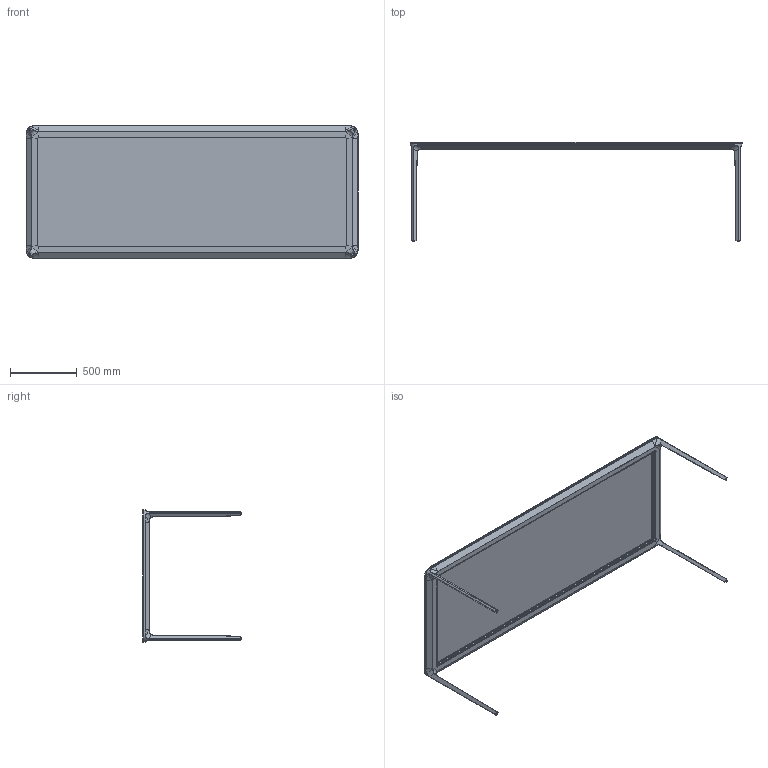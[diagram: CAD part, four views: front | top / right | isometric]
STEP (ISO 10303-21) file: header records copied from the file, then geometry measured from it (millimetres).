
FILE_DESCRIPTION(/* description */ (''),/* implementation_level */ '2;1');
FILE_NAME(/* name */ 'C:\AutodeskVault\AreaLavoro\Progetti\SoVeT Italia\1. Tavoli_Dining tables\Slim\Slim 8\Web file\Slim 8 Web\P1742.stp',/* time_stamp */ '2014-06-06T12:34:04+02:00',/* author */ ('Gianluca'),/* organization */ ('So.Ve.T. s.r.l.'),/* preprocessor_version */ 'ST-DEVELOPER v15.2',/* originating_system */ 'Autodesk Inventor 2014',/* authorisation */ 'IL PROGETTO E'' DI ESCLUSIVA PROPRIETA'' DELLA SO.VE.T. srl. E'' VIETATA OGNI RIPRODUZIONE TOTALE O PARZIALE E QUALSIASI UTILIZZO NON AUTORIZZATO.');
FILE_SCHEMA (('AUTOMOTIVE_DESIGN { 1 0 10303 214 3 1 1 }'));
Length unit declared in the file: centimetre
Products named in the file (1): P1742 Contorno semplificato
Bounding box: 2496 x 743.05 x 996 mm (x, y, z)
Volume: 39587302.3 mm3; surface area: 7092750.7 mm2
Topology: 2 solids, 2 shells, 332 faces, 872 edges, 544 vertices
Faces by surface type: plane 172, cylinder 112, bspline 32, cone 8, sphere 4, torus 4
Full cylindrical faces by diameter (mm): 12 x4
Entity records: 11563 total; most frequent: CARTESIAN_POINT 3168, ORIENTED_EDGE 1736, DIRECTION 1682, EDGE_CURVE 860, AXIS2_PLACEMENT_3D 569, LINE 544, VECTOR 544, VERTEX_POINT 540
